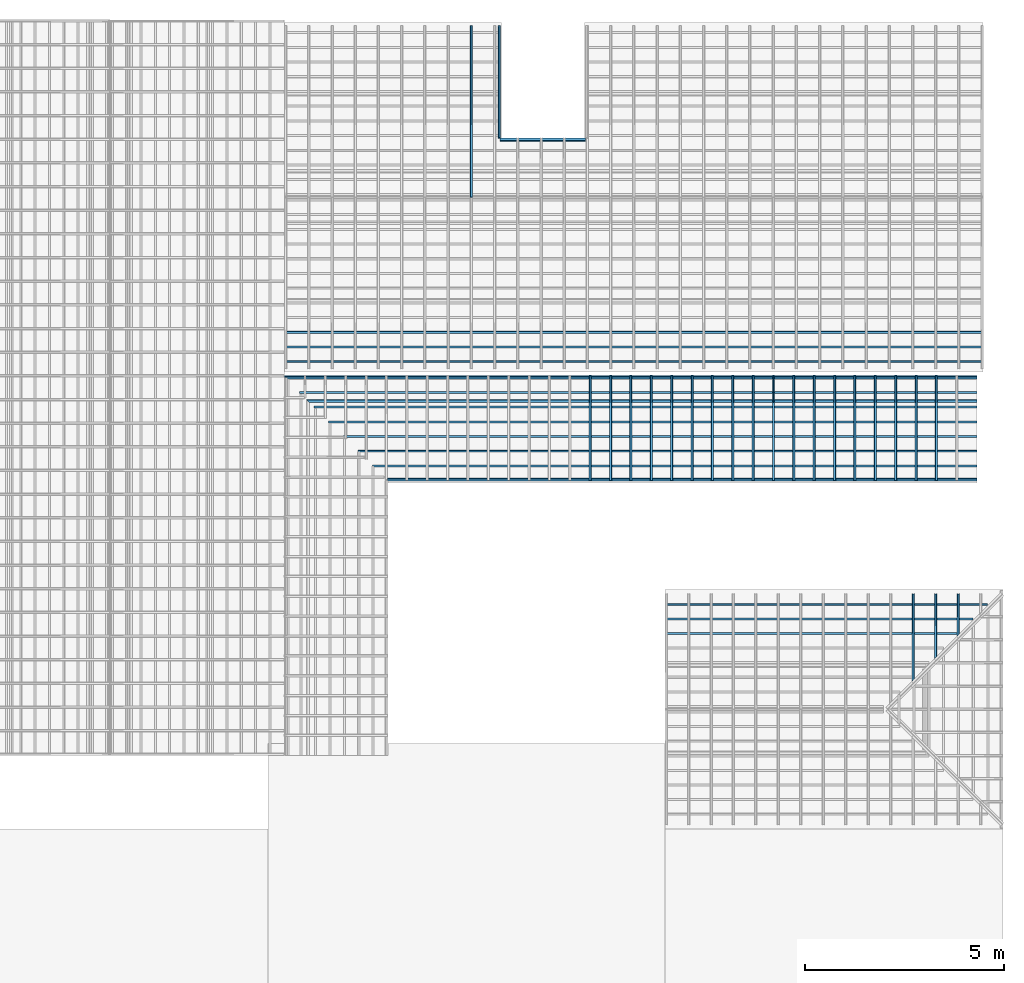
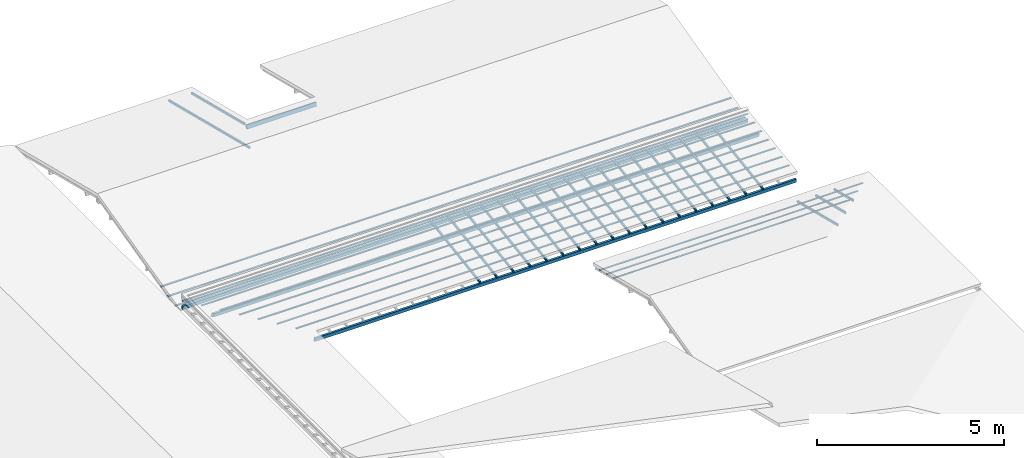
# One storey, part 6 of 10: 40 members, 8 elements without a shape of their own.
"""IFC2X3 building model written with IfcOpenShell, lengths in metres."""

from ifc_helpers import new_model, entity, si_unit, converted_unit, derived_unit, direction, frame, frame_2d, origin, origin_2d_with_axis, place, context, subcontext, project, spatial, rectangle, extrude, clip, halfspace, source, transform, mapped, material, type_object, type_shapes, element, aggregate, save


model = new_model("IFC2X3")

# Units and contexts
model_context = context("Model", 3, precision=1e-05, world=origin(), true_north=direction((6.12303176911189e-17, 1.0)))
body_context = subcontext(model_context, "Body", "Model", "MODEL_VIEW")
ifc_project = project(units=[si_unit("LENGTHUNIT", "METRE"), si_unit("AREAUNIT", "SQUARE_METRE"), si_unit("VOLUMEUNIT", "CUBIC_METRE"), converted_unit("PLANEANGLEUNIT", "DEGREE", entity("IfcRatioMeasure", 0.0174532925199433), si_unit("PLANEANGLEUNIT", "RADIAN"), dimensions=[0, 0, 0, 0, 0, 0, 0]), si_unit("MASSUNIT", "GRAM", prefix="KILO"), derived_unit("MASSDENSITYUNIT", [(si_unit("MASSUNIT", "GRAM", prefix="KILO"), 1), (si_unit("LENGTHUNIT", "METRE"), -3)]), si_unit("TIMEUNIT", "SECOND"), si_unit("FREQUENCYUNIT", "HERTZ"), si_unit("THERMODYNAMICTEMPERATUREUNIT", "DEGREE_CELSIUS"), derived_unit("THERMALTRANSMITTANCEUNIT", [(si_unit("MASSUNIT", "GRAM", prefix="KILO"), 1), (si_unit("THERMODYNAMICTEMPERATUREUNIT", "KELVIN"), -1), (si_unit("TIMEUNIT", "SECOND"), -3)]), derived_unit("VOLUMETRICFLOWRATEUNIT", [(si_unit("LENGTHUNIT", "METRE"), 3), (si_unit("TIMEUNIT", "SECOND"), -1)]), si_unit("ELECTRICCURRENTUNIT", "AMPERE"), si_unit("ELECTRICVOLTAGEUNIT", "VOLT"), si_unit("POWERUNIT", "WATT"), si_unit("FORCEUNIT", "NEWTON", prefix="KILO"), si_unit("ILLUMINANCEUNIT", "LUX"), si_unit("LUMINOUSFLUXUNIT", "LUMEN"), si_unit("LUMINOUSINTENSITYUNIT", "CANDELA"), derived_unit("USERDEFINED", [(si_unit("MASSUNIT", "GRAM", prefix="KILO"), -1), (si_unit("LENGTHUNIT", "METRE"), -2), (si_unit("TIMEUNIT", "SECOND"), 3), (si_unit("LUMINOUSFLUXUNIT", "LUMEN"), 1)]), derived_unit("LINEARVELOCITYUNIT", [(si_unit("LENGTHUNIT", "METRE"), 1), (si_unit("TIMEUNIT", "SECOND"), -1)]), si_unit("PRESSUREUNIT", "PASCAL"), derived_unit("USERDEFINED", [(si_unit("LENGTHUNIT", "METRE"), -2), (si_unit("MASSUNIT", "GRAM", prefix="KILO"), 1), (si_unit("TIMEUNIT", "SECOND"), -2)])], contexts=[model_context])

# Site, building, storey
site_placement = place(None, frame((26.9889013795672, -17.5624287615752, 0.0)))
site = spatial("IfcSite", under=ifc_project, at=site_placement, Name="Default", CompositionType="ELEMENT")
building_placement = place(site_placement, origin())
building = spatial("IfcBuilding", under=site, at=building_placement, Name="C. C. L. Monsenhor Antônio Sampaio", CompositionType="ELEMENT")
storey_placement = place(building_placement, frame((0.0, 0.0, 4.3)))
storey = spatial("IfcBuildingStorey", under=building, at=storey_placement, Name="COBERTURA BLOCO 01", CompositionType="ELEMENT", Elevation=4.3)

# Roof, members
curtain_wall_type_1 = type_object("IfcCurtainWallType", PredefinedType="NOTDEFINED")
roof_1_placement = place(storey_placement, frame((0.0, 0.0, -4.3)))
roof_1 = element("IfcRoof", 1, at=roof_1_placement, inside=storey, type_object=curtain_wall_type_1, ShapeType="NOTDEFINED")
ifc_material = material(Name=".Madeira")
member_type_1 = type_object("IfcMemberType", Name="Terça", PredefinedType="MEMBER")
shared_shape_1 = source(origin(), body_context, "Body", "SweptSolid", [
    extrude(rectangle(XDim=0.12, YDim=0.0599999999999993, at=origin_2d_with_axis()), frame((-0.0299999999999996, -0.06, -14.834834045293), z_axis=(0.0, 0.0, 1.0), x_axis=(0.0, -1.0, 0.0)), (0.0, 0.0, 1.0), 14.834834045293),
])
type_shapes(member_type_1, [shared_shape_1])
member_1_placement = place(storey_placement, frame((11.57944770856, -19.5382322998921, 0.00222510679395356), z_axis=(1.0, 0.0, 0.0), x_axis=(0.0, -0.988936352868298, -0.148340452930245)))
member_1 = element("IfcMember", 2, at=member_1_placement, type_object=member_type_1, material=ifc_material, Name="Rectangular Mullion:Terça", ObjectType="Terça", context=body_context, shape_type="MappedRepresentation", body=[
    mapped(shared_shape_1, transform((0.0, 0.0, 0.0), scale=1.0)),
])
member_type_2 = type_object("IfcMemberType", Name="Terça", PredefinedType="MEMBER")
shared_shape_2 = source(origin(), body_context, "Body", "SweptSolid", [
    extrude(rectangle(XDim=0.12, YDim=0.0599999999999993, at=origin_2d_with_axis()), frame((-0.0299999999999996, -0.06, -17.42), z_axis=(0.0, 0.0, 1.0), x_axis=(0.0, -1.0, 0.0)), (0.0, 0.0, 1.0), 17.42),
])
type_shapes(member_type_2, [shared_shape_2])
member_2_placement = place(storey_placement, frame((-5.84055229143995, -16.9030663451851, 0.397500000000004), z_axis=(-1.0, 0.0, 0.0), x_axis=(0.0, 0.988936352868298, 0.148340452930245)))
member_2 = element("IfcMember", 3, at=member_2_placement, type_object=member_type_2, material=ifc_material, Name="Rectangular Mullion:Terça", ObjectType="Terça", context=body_context, shape_type="MappedRepresentation", body=[
    mapped(shared_shape_2, transform((0.0, 0.0, 0.0), scale=1.0)),
])
member_type_3 = type_object("IfcMemberType", Name="Terça", PredefinedType="MEMBER")
shared_shape_3 = source(origin(), body_context, "Body", "Clipping", [
    clip(extrude(rectangle(XDim=0.12, YDim=0.0599999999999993, at=origin_2d_with_axis()), frame((0.0, -0.06, -16.8423748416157), z_axis=(0.0, 0.0, 1.0), x_axis=(0.0, -1.0, 0.0)), (0.0, 0.0, 1.0), 16.8720429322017), halfspace(frame((0.0452141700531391, -0.301427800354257, 0.0), z_axis=(-0.699283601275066, -0.10489254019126, 0.707106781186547), x_axis=(-0.699283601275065, -0.10489254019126, -0.707106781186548)), False)),
])
type_shapes(member_type_3, [shared_shape_3])
member_3_placement = place(storey_placement, frame((-5.26292713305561, -17.5306915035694, 0.303356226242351), z_axis=(-1.0, 0.0, 0.0), x_axis=(0.0, 0.988936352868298, 0.148340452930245)))
member_3 = element("IfcMember", 4, at=member_3_placement, type_object=member_type_3, material=ifc_material, Name="Rectangular Mullion:Terça", ObjectType="Terça", context=body_context, shape_type="MappedRepresentation", body=[
    mapped(shared_shape_3, transform((0.0, 0.0, 0.0), scale=1.0)),
])
aggregate(roof_1, [member_1, member_2, member_3])

curtain_wall_type_2 = type_object("IfcCurtainWallType", PredefinedType="NOTDEFINED")
roof_2_placement = place(storey_placement, frame((0.0, 0.0, -4.3)))
roof_2 = element("IfcRoof", 5, at=roof_2_placement, inside=storey, type_object=curtain_wall_type_2, ShapeType="NOTDEFINED")
member_type_4 = type_object("IfcMemberType", Name="Ripa", PredefinedType="MEMBER")
shared_shape_4 = source(origin(), body_context, "Body", "SweptSolid", [
    extrude(rectangle(XDim=0.015, YDim=0.05, at=frame_2d((-1.69135538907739e-17, 0.0), x_axis=(1.0, 0.0))), frame((-0.025, -0.1875, -17.42), z_axis=(0.0, 0.0, 1.0), x_axis=(0.0, -1.0, 0.0)), (0.0, 0.0, 1.0), 17.42),
])
type_shapes(member_type_4, [shared_shape_4])
member_4_placement = place(storey_placement, frame((-5.84055229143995, -16.9030663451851, 0.498618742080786), z_axis=(-1.0, 0.0, 0.0), x_axis=(0.0, 0.988936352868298, 0.148340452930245)))
member_4 = element("IfcMember", 6, at=member_4_placement, type_object=member_type_4, material=ifc_material, Name="Rectangular Mullion:Ripa", ObjectType="Ripa", context=body_context, shape_type="MappedRepresentation", body=[
    mapped(shared_shape_4, transform((0.0, 0.0, 0.0), scale=1.0)),
])
member_type_5 = type_object("IfcMemberType", Name="Ripa", PredefinedType="MEMBER")
shared_shape_5 = source(origin(), body_context, "Body", "SweptSolid", [
    extrude(rectangle(XDim=0.015, YDim=0.05, at=frame_2d((-1.69135538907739e-17, 0.0), x_axis=(1.0, 0.0))), frame((0.025, -0.1875, -15.204222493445), z_axis=(0.0, 0.0, 1.0), x_axis=(0.0, -1.0, 0.0)), (0.0, 0.0, 1.0), 15.204222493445),
])
type_shapes(member_type_5, [shared_shape_5])
member_5_placement = place(storey_placement, frame((-3.62477478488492, -19.1688438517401, 0.158752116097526), z_axis=(-1.0, 0.0, 0.0), x_axis=(0.0, 0.988936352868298, 0.148340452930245)))
member_5 = element("IfcMember", 7, at=member_5_placement, type_object=member_type_5, material=ifc_material, Name="Rectangular Mullion:Ripa", ObjectType="Ripa", context=body_context, shape_type="MappedRepresentation", body=[
    mapped(shared_shape_5, transform((0.0, 0.0, 0.0), scale=1.0)),
])
member_type_6 = type_object("IfcMemberType", Name="Ripa", PredefinedType="MEMBER")
shared_shape_6 = source(origin(), body_context, "Body", "SweptSolid", [
    extrude(rectangle(XDim=0.015, YDim=0.05, at=frame_2d((-1.69135538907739e-17, 0.0), x_axis=(1.0, 0.0))), frame((0.025, -0.1875, -15.5736109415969), z_axis=(0.0, 0.0, 1.0), x_axis=(0.0, -1.0, 0.0)), (0.0, 0.0, 1.0), 15.5736109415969),
])
type_shapes(member_type_6, [shared_shape_6])
member_6_placement = place(storey_placement, frame((-3.99416323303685, -18.7994554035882, 0.214160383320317), z_axis=(-1.0, 0.0, 0.0), x_axis=(0.0, 0.988936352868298, 0.148340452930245)))
member_6 = element("IfcMember", 8, at=member_6_placement, type_object=member_type_6, material=ifc_material, Name="Rectangular Mullion:Ripa", ObjectType="Ripa", context=body_context, shape_type="MappedRepresentation", body=[
    mapped(shared_shape_6, transform((0.0, 0.0, 0.0), scale=1.0)),
])
member_type_7 = type_object("IfcMemberType", Name="Ripa", PredefinedType="MEMBER")
shared_shape_7 = source(origin(), body_context, "Body", "SweptSolid", [
    extrude(rectangle(XDim=0.015, YDim=0.05, at=frame_2d((-1.69135538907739e-17, 0.0), x_axis=(1.0, 0.0))), frame((0.025, -0.1875, -15.9429993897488), z_axis=(0.0, 0.0, 1.0), x_axis=(0.0, -1.0, 0.0)), (0.0, 0.0, 1.0), 15.9429993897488),
])
type_shapes(member_type_7, [shared_shape_7])
member_7_placement = place(storey_placement, frame((-4.36355168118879, -18.4300669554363, 0.269568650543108), z_axis=(-1.0, 0.0, 0.0), x_axis=(0.0, 0.988936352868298, 0.148340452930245)))
member_7 = element("IfcMember", 9, at=member_7_placement, type_object=member_type_7, material=ifc_material, Name="Rectangular Mullion:Ripa", ObjectType="Ripa", context=body_context, shape_type="MappedRepresentation", body=[
    mapped(shared_shape_7, transform((0.0, 0.0, 0.0), scale=1.0)),
])
member_type_8 = type_object("IfcMemberType", Name="Ripa", PredefinedType="MEMBER")
shared_shape_8 = source(origin(), body_context, "Body", "SweptSolid", [
    extrude(rectangle(XDim=0.015, YDim=0.05, at=frame_2d((-1.69135538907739e-17, 0.0), x_axis=(1.0, 0.0))), frame((0.025, -0.1875, -16.3123878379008), z_axis=(0.0, 0.0, 1.0), x_axis=(0.0, -1.0, 0.0)), (0.0, 0.0, 1.0), 16.3123878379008),
])
type_shapes(member_type_8, [shared_shape_8])
member_8_placement = place(storey_placement, frame((-4.73294012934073, -18.0606785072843, 0.3249769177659), z_axis=(-1.0, 0.0, 0.0), x_axis=(0.0, 0.988936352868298, 0.148340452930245)))
member_8 = element("IfcMember", 10, at=member_8_placement, type_object=member_type_8, material=ifc_material, Name="Rectangular Mullion:Ripa", ObjectType="Ripa", context=body_context, shape_type="MappedRepresentation", body=[
    mapped(shared_shape_8, transform((0.0, 0.0, 0.0), scale=1.0)),
])
member_type_9 = type_object("IfcMemberType", Name="Ripa", PredefinedType="MEMBER")
shared_shape_9 = source(origin(), body_context, "Body", "SweptSolid", [
    extrude(rectangle(XDim=0.015, YDim=0.05, at=frame_2d((-1.69135538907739e-17, 0.0), x_axis=(1.0, 0.0))), frame((0.025, -0.1875, -16.6817762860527), z_axis=(0.0, 0.0, 1.0), x_axis=(0.0, -1.0, 0.0)), (0.0, 0.0, 1.0), 16.6817762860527),
])
type_shapes(member_type_9, [shared_shape_9])
member_9_placement = place(storey_placement, frame((-5.10232857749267, -17.6912900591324, 0.380385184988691), z_axis=(-1.0, 0.0, 0.0), x_axis=(0.0, 0.988936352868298, 0.148340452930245)))
member_9 = element("IfcMember", 11, at=member_9_placement, type_object=member_type_9, material=ifc_material, Name="Rectangular Mullion:Ripa", ObjectType="Ripa", context=body_context, shape_type="MappedRepresentation", body=[
    mapped(shared_shape_9, transform((0.0, 0.0, 0.0), scale=1.0)),
])
member_type_10 = type_object("IfcMemberType", Name="Ripa", PredefinedType="MEMBER")
shared_shape_10 = source(origin(), body_context, "Body", "SweptSolid", [
    extrude(rectangle(XDim=0.015, YDim=0.05, at=frame_2d((-1.69135538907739e-17, 0.0), x_axis=(1.0, 0.0))), frame((0.025, -0.1875, -17.0511647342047), z_axis=(0.0, 0.0, 1.0), x_axis=(0.0, -1.0, 0.0)), (0.0, 0.0, 1.0), 17.0511647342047),
])
type_shapes(member_type_10, [shared_shape_10])
member_10_placement = place(storey_placement, frame((-5.47171702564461, -17.3219016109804, 0.435793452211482), z_axis=(-1.0, 0.0, 0.0), x_axis=(0.0, 0.988936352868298, 0.148340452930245)))
member_10 = element("IfcMember", 12, at=member_10_placement, type_object=member_type_10, material=ifc_material, Name="Rectangular Mullion:Ripa", ObjectType="Ripa", context=body_context, shape_type="MappedRepresentation", body=[
    mapped(shared_shape_10, transform((0.0, 0.0, 0.0), scale=1.0)),
])
aggregate(roof_2, [member_4, member_5, member_6, member_7, member_8, member_9, member_10])

curtain_wall_type_3 = type_object("IfcCurtainWallType", PredefinedType="NOTDEFINED")
roof_3_placement = place(storey_placement, frame((0.0, 0.0, -4.3)))
roof_3 = element("IfcRoof", 13, at=roof_3_placement, inside=storey, type_object=curtain_wall_type_3, ShapeType="NOTDEFINED")
member_type_11 = type_object("IfcMemberType", Name="6x5 cm", PredefinedType="MEMBER")
shared_shape_11 = source(origin(), body_context, "Body", "SweptSolid", [
    extrude(rectangle(XDim=0.06, YDim=0.05, at=origin_2d_with_axis()), frame((0.0, 0.05, -2.66464666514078), z_axis=(0.0, 0.0, 1.0), x_axis=(0.0, -1.0, 0.0)), (0.0, 0.0, 1.0), 2.66464666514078),
])
type_shapes(member_type_11, [shared_shape_11])
member_11_placement = place(storey_placement, frame((1.84474182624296, -16.9030663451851, 0.599737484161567), z_axis=(0.0, 0.988936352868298, 0.148340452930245), x_axis=(1.0, 0.0, 0.0)))
member_11 = element("IfcMember", 14, at=member_11_placement, type_object=member_type_11, material=ifc_material, Name="Rectangular Mullion:6x5 cm", ObjectType="6x5 cm", context=body_context, shape_type="MappedRepresentation", body=[
    mapped(shared_shape_11, transform((0.0, 0.0, 0.0), scale=1.0)),
])
member_12_placement = place(storey_placement, frame((2.3570947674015, -16.9030663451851, 0.599737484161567), z_axis=(0.0, 0.988936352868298, 0.148340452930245), x_axis=(1.0, 0.0, 0.0)))
member_12 = element("IfcMember", 15, at=member_12_placement, type_object=member_type_11, material=ifc_material, Name="Rectangular Mullion:6x5 cm", ObjectType="6x5 cm", context=body_context, shape_type="MappedRepresentation", body=[
    mapped(shared_shape_11, transform((0.0, 0.0, 0.0), scale=1.0)),
])
member_13_placement = place(storey_placement, frame((2.86944770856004, -16.9030663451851, 0.599737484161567), z_axis=(0.0, 0.988936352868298, 0.148340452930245), x_axis=(1.0, 0.0, 0.0)))
member_13 = element("IfcMember", 16, at=member_13_placement, type_object=member_type_11, material=ifc_material, Name="Rectangular Mullion:6x5 cm", ObjectType="6x5 cm", context=body_context, shape_type="MappedRepresentation", body=[
    mapped(shared_shape_11, transform((0.0, 0.0, 0.0), scale=1.0)),
])
member_14_placement = place(storey_placement, frame((3.38180064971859, -16.9030663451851, 0.599737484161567), z_axis=(0.0, 0.988936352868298, 0.148340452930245), x_axis=(1.0, 0.0, 0.0)))
member_14 = element("IfcMember", 17, at=member_14_placement, type_object=member_type_11, material=ifc_material, Name="Rectangular Mullion:6x5 cm", ObjectType="6x5 cm", context=body_context, shape_type="MappedRepresentation", body=[
    mapped(shared_shape_11, transform((0.0, 0.0, 0.0), scale=1.0)),
])
member_15_placement = place(storey_placement, frame((3.89415359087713, -16.9030663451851, 0.599737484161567), z_axis=(0.0, 0.988936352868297, 0.148340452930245), x_axis=(1.0, 0.0, 0.0)))
member_15 = element("IfcMember", 18, at=member_15_placement, type_object=member_type_11, material=ifc_material, Name="Rectangular Mullion:6x5 cm", ObjectType="6x5 cm", context=body_context, shape_type="MappedRepresentation", body=[
    mapped(shared_shape_11, transform((0.0, 0.0, 0.0), scale=1.0)),
])
member_16_placement = place(storey_placement, frame((4.40650653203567, -16.9030663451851, 0.599737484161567), z_axis=(0.0, 0.988936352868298, 0.148340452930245), x_axis=(1.0, 0.0, 0.0)))
member_16 = element("IfcMember", 19, at=member_16_placement, type_object=member_type_11, material=ifc_material, Name="Rectangular Mullion:6x5 cm", ObjectType="6x5 cm", context=body_context, shape_type="MappedRepresentation", body=[
    mapped(shared_shape_11, transform((0.0, 0.0, 0.0), scale=1.0)),
])
member_17_placement = place(storey_placement, frame((4.91885947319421, -16.9030663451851, 0.599737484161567), z_axis=(0.0, 0.988936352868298, 0.148340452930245), x_axis=(1.0, 0.0, 0.0)))
member_17 = element("IfcMember", 20, at=member_17_placement, type_object=member_type_11, material=ifc_material, Name="Rectangular Mullion:6x5 cm", ObjectType="6x5 cm", context=body_context, shape_type="MappedRepresentation", body=[
    mapped(shared_shape_11, transform((0.0, 0.0, 0.0), scale=1.0)),
])
member_18_placement = place(storey_placement, frame((5.43121241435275, -16.9030663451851, 0.599737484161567), z_axis=(0.0, 0.988936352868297, 0.148340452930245), x_axis=(1.0, 0.0, 0.0)))
member_18 = element("IfcMember", 21, at=member_18_placement, type_object=member_type_11, material=ifc_material, Name="Rectangular Mullion:6x5 cm", ObjectType="6x5 cm", context=body_context, shape_type="MappedRepresentation", body=[
    mapped(shared_shape_11, transform((0.0, 0.0, 0.0), scale=1.0)),
])
member_19_placement = place(storey_placement, frame((5.9435653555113, -16.9030663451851, 0.599737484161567), z_axis=(0.0, 0.988936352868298, 0.148340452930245), x_axis=(1.0, 0.0, 0.0)))
member_19 = element("IfcMember", 22, at=member_19_placement, type_object=member_type_11, material=ifc_material, Name="Rectangular Mullion:6x5 cm", ObjectType="6x5 cm", context=body_context, shape_type="MappedRepresentation", body=[
    mapped(shared_shape_11, transform((0.0, 0.0, 0.0), scale=1.0)),
])
member_20_placement = place(storey_placement, frame((6.45591829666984, -16.9030663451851, 0.599737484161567), z_axis=(0.0, 0.988936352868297, 0.148340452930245), x_axis=(1.0, 0.0, 0.0)))
member_20 = element("IfcMember", 23, at=member_20_placement, type_object=member_type_11, material=ifc_material, Name="Rectangular Mullion:6x5 cm", ObjectType="6x5 cm", context=body_context, shape_type="MappedRepresentation", body=[
    mapped(shared_shape_11, transform((0.0, 0.0, 0.0), scale=1.0)),
])
member_21_placement = place(storey_placement, frame((6.96827123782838, -16.9030663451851, 0.599737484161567), z_axis=(0.0, 0.988936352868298, 0.148340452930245), x_axis=(1.0, 0.0, 0.0)))
member_21 = element("IfcMember", 24, at=member_21_placement, type_object=member_type_11, material=ifc_material, Name="Rectangular Mullion:6x5 cm", ObjectType="6x5 cm", context=body_context, shape_type="MappedRepresentation", body=[
    mapped(shared_shape_11, transform((0.0, 0.0, 0.0), scale=1.0)),
])
member_22_placement = place(storey_placement, frame((7.48062417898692, -16.9030663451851, 0.599737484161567), z_axis=(0.0, 0.988936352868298, 0.148340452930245), x_axis=(1.0, 0.0, 0.0)))
member_22 = element("IfcMember", 25, at=member_22_placement, type_object=member_type_11, material=ifc_material, Name="Rectangular Mullion:6x5 cm", ObjectType="6x5 cm", context=body_context, shape_type="MappedRepresentation", body=[
    mapped(shared_shape_11, transform((0.0, 0.0, 0.0), scale=1.0)),
])
member_23_placement = place(storey_placement, frame((7.99297712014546, -16.9030663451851, 0.599737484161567), z_axis=(0.0, 0.988936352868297, 0.148340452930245), x_axis=(1.0, 0.0, 0.0)))
member_23 = element("IfcMember", 26, at=member_23_placement, type_object=member_type_11, material=ifc_material, Name="Rectangular Mullion:6x5 cm", ObjectType="6x5 cm", context=body_context, shape_type="MappedRepresentation", body=[
    mapped(shared_shape_11, transform((0.0, 0.0, 0.0), scale=1.0)),
])
member_24_placement = place(storey_placement, frame((8.505330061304, -16.9030663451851, 0.599737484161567), z_axis=(0.0, 0.988936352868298, 0.148340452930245), x_axis=(1.0, 0.0, 0.0)))
member_24 = element("IfcMember", 27, at=member_24_placement, type_object=member_type_11, material=ifc_material, Name="Rectangular Mullion:6x5 cm", ObjectType="6x5 cm", context=body_context, shape_type="MappedRepresentation", body=[
    mapped(shared_shape_11, transform((0.0, 0.0, 0.0), scale=1.0)),
])
member_25_placement = place(storey_placement, frame((9.01768300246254, -16.9030663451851, 0.599737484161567), z_axis=(0.0, 0.988936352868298, 0.148340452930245), x_axis=(1.0, 0.0, 0.0)))
member_25 = element("IfcMember", 28, at=member_25_placement, type_object=member_type_11, material=ifc_material, Name="Rectangular Mullion:6x5 cm", ObjectType="6x5 cm", context=body_context, shape_type="MappedRepresentation", body=[
    mapped(shared_shape_11, transform((0.0, 0.0, 0.0), scale=1.0)),
])
member_26_placement = place(storey_placement, frame((9.53003594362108, -16.9030663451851, 0.599737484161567), z_axis=(0.0, 0.988936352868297, 0.148340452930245), x_axis=(1.0, 0.0, 0.0)))
member_26 = element("IfcMember", 29, at=member_26_placement, type_object=member_type_11, material=ifc_material, Name="Rectangular Mullion:6x5 cm", ObjectType="6x5 cm", context=body_context, shape_type="MappedRepresentation", body=[
    mapped(shared_shape_11, transform((0.0, 0.0, 0.0), scale=1.0)),
])
member_27_placement = place(storey_placement, frame((10.0423888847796, -16.9030663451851, 0.599737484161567), z_axis=(0.0, 0.988936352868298, 0.148340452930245), x_axis=(1.0, 0.0, 0.0)))
member_27 = element("IfcMember", 30, at=member_27_placement, type_object=member_type_11, material=ifc_material, Name="Rectangular Mullion:6x5 cm", ObjectType="6x5 cm", context=body_context, shape_type="MappedRepresentation", body=[
    mapped(shared_shape_11, transform((0.0, 0.0, 0.0), scale=1.0)),
])
member_28_placement = place(storey_placement, frame((10.5547418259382, -16.9030663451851, 0.599737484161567), z_axis=(0.0, 0.988936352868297, 0.148340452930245), x_axis=(1.0, 0.0, 0.0)))
member_28 = element("IfcMember", 31, at=member_28_placement, type_object=member_type_11, material=ifc_material, Name="Rectangular Mullion:6x5 cm", ObjectType="6x5 cm", context=body_context, shape_type="MappedRepresentation", body=[
    mapped(shared_shape_11, transform((0.0, 0.0, 0.0), scale=1.0)),
])
aggregate(roof_3, [member_11, member_12, member_13, member_14, member_15, member_16, member_17, member_18, member_19, member_20, member_21, member_22, member_23, member_24, member_25, member_26, member_27, member_28])

roof_4_placement = place(storey_placement, frame((0.0, 0.0, -4.3)))
roof_4 = element("IfcRoof", 32, at=roof_4_placement, inside=storey, type_object=curtain_wall_type_2, ShapeType="NOTDEFINED")
member_type_12 = type_object("IfcMemberType", Name="Ripa", PredefinedType="MEMBER")
shared_shape_12 = source(origin(), body_context, "Body", "SweptSolid", [
    extrude(rectangle(XDim=0.015, YDim=0.05, at=frame_2d((-1.69135538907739e-17, 0.0), x_axis=(1.0, 0.0))), frame((0.025, -0.1875, -8.1086620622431), z_axis=(0.0, 0.0, 1.0), x_axis=(0.0, -1.0, 0.0)), (0.0, 0.0, 1.0), 8.1086620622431),
])
type_shapes(member_type_12, [shared_shape_12])
member_29_placement = place(storey_placement, frame((11.8380392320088, -22.6744748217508, 1.59592975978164), z_axis=(1.0, 0.0, 0.0), x_axis=(0.0, -0.970142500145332, 0.242535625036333)))
member_29 = element("IfcMember", 33, at=member_29_placement, type_object=member_type_12, material=ifc_material, Name="Rectangular Mullion:Ripa", ObjectType="Ripa", context=body_context, shape_type="MappedRepresentation", body=[
    mapped(shared_shape_12, transform((0.0, 0.0, 0.0), scale=1.0)),
])
member_type_13 = type_object("IfcMemberType", Name="Ripa", PredefinedType="MEMBER")
shared_shape_13 = source(origin(), body_context, "Body", "SweptSolid", [
    extrude(rectangle(XDim=0.015, YDim=0.05, at=frame_2d((-1.69135538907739e-17, 0.0), x_axis=(1.0, 0.0))), frame((0.025, -0.1875, -7.74150714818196), z_axis=(0.0, 0.0, 1.0), x_axis=(0.0, -1.0, 0.0)), (0.0, 0.0, 1.0), 7.74150714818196),
])
type_shapes(member_type_13, [shared_shape_13])
member_30_placement = place(storey_placement, frame((11.4708843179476, -23.0416297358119, 1.68771848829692), z_axis=(1.0, 0.0, 0.0), x_axis=(0.0, -0.970142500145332, 0.242535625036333)))
member_30 = element("IfcMember", 34, at=member_30_placement, type_object=member_type_13, material=ifc_material, Name="Rectangular Mullion:Ripa", ObjectType="Ripa", context=body_context, shape_type="MappedRepresentation", body=[
    mapped(shared_shape_13, transform((0.0, 0.0, 0.0), scale=1.0)),
])
member_type_14 = type_object("IfcMemberType", Name="Ripa", PredefinedType="MEMBER")
shared_shape_14 = source(origin(), body_context, "Body", "SweptSolid", [
    extrude(rectangle(XDim=0.015, YDim=0.05, at=frame_2d((-1.69135538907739e-17, 0.0), x_axis=(1.0, 0.0))), frame((0.025, -0.1875, -7.37435223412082), z_axis=(0.0, 0.0, 1.0), x_axis=(0.0, -1.0, 0.0)), (0.0, 0.0, 1.0), 7.37435223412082),
])
type_shapes(member_type_14, [shared_shape_14])
member_31_placement = place(storey_placement, frame((11.1037294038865, -23.408784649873, 1.77950721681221), z_axis=(1.0, 0.0, 0.0), x_axis=(0.0, -0.970142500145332, 0.242535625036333)))
member_31 = element("IfcMember", 35, at=member_31_placement, type_object=member_type_14, material=ifc_material, Name="Rectangular Mullion:Ripa", ObjectType="Ripa", context=body_context, shape_type="MappedRepresentation", body=[
    mapped(shared_shape_14, transform((0.0, 0.0, 0.0), scale=1.0)),
])
aggregate(roof_4, [member_29, member_30, member_31])

curtain_wall_type_4 = type_object("IfcCurtainWallType", PredefinedType="NOTDEFINED")
roof_5_placement = place(storey_placement, frame((0.0, 0.0, -4.3)))
roof_5 = element("IfcRoof", 36, at=roof_5_placement, inside=storey, type_object=curtain_wall_type_4, ShapeType="NOTDEFINED")
member_type_15 = type_object("IfcMemberType", Name="Caibro", PredefinedType="MEMBER")
shared_shape_15 = source(origin(), body_context, "Body", "Clipping", [
    clip(extrude(rectangle(XDim=0.06, YDim=0.0499999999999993, at=origin_2d_with_axis()), frame((0.0, -0.03, -1.13912021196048), z_axis=(0.0, 0.0, 1.0), x_axis=(0.0, -1.0, 0.0)), (0.0, 0.0, 1.0), 1.09308258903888), halfspace(frame((-0.52916743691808, 91.44, -0.617260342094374), z_axis=(-0.717740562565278, 0.0, 0.696310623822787), x_axis=(0.696310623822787, 0.0, 0.717740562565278)), False)),
])
type_shapes(member_type_15, [shared_shape_15])
member_32_placement = place(storey_placement, frame((11.1000852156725, -23.512428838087, 1.92849590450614), z_axis=(0.0, -0.970142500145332, 0.242535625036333), x_axis=(-1.0, 0.0, 0.0)))
member_32 = element("IfcMember", 37, at=member_32_placement, type_object=member_type_15, material=ifc_material, Name="Rectangular Mullion:Caibro", ObjectType="Caibro", context=body_context, shape_type="MappedRepresentation", body=[
    mapped(shared_shape_15, transform((0.0, 0.0, 0.0), scale=1.0)),
])
member_type_16 = type_object("IfcMemberType", Name="Caibro", PredefinedType="MEMBER")
shared_shape_16 = source(origin(), body_context, "Body", "Clipping", [
    clip(extrude(rectangle(XDim=0.06, YDim=0.0499999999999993, at=origin_2d_with_axis()), frame((0.0, -0.03, -1.72156502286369), z_axis=(0.0, 0.0, 1.0), x_axis=(0.0, -1.0, 0.0)), (0.0, 0.0, 1.0), 1.67552739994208), halfspace(frame((-0.529167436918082, 91.44, -0.617260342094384), z_axis=(-0.717740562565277, 0.0, 0.696310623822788), x_axis=(0.696310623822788, 0.0, 0.717740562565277)), False)),
])
type_shapes(member_type_16, [shared_shape_16])
member_33_placement = place(storey_placement, frame((10.5350307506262, -24.0774833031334, 2.06975952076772), z_axis=(0.0, -0.970142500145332, 0.242535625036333), x_axis=(-1.0, 0.0, 0.0)))
member_33 = element("IfcMember", 38, at=member_33_placement, type_object=member_type_16, material=ifc_material, Name="Rectangular Mullion:Caibro", ObjectType="Caibro", context=body_context, shape_type="MappedRepresentation", body=[
    mapped(shared_shape_16, transform((0.0, 0.0, 0.0), scale=1.0)),
])
member_type_17 = type_object("IfcMemberType", Name="Caibro", PredefinedType="MEMBER")
shared_shape_17 = source(origin(), body_context, "Body", "Clipping", [
    clip(extrude(rectangle(XDim=0.06, YDim=0.0499999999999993, at=origin_2d_with_axis()), frame((0.0, -0.03, -2.3040098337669), z_axis=(0.0, 0.0, 1.0), x_axis=(0.0, -1.0, 0.0)), (0.0, 0.0, 1.0), 2.25797221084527), halfspace(frame((-0.529167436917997, 91.44, -0.617260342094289), z_axis=(-0.717740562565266, 0.0, 0.696310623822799), x_axis=(0.696310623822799, 0.0, 0.717740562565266)), False)),
])
type_shapes(member_type_17, [shared_shape_17])
member_34_placement = place(storey_placement, frame((9.96997628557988, -24.6425377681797, 2.2110231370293), z_axis=(0.0, -0.970142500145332, 0.242535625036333), x_axis=(-1.0, 0.0, 0.0)))
member_34 = element("IfcMember", 39, at=member_34_placement, type_object=member_type_17, material=ifc_material, Name="Rectangular Mullion:Caibro", ObjectType="Caibro", context=body_context, shape_type="MappedRepresentation", body=[
    mapped(shared_shape_17, transform((0.0, 0.0, 0.0), scale=1.0)),
])
aggregate(roof_5, [member_32, member_33, member_34])

roof_6_placement = place(storey_placement, frame((0.0, 0.0, -4.3)))
roof_6 = element("IfcRoof", 40, at=roof_6_placement, inside=storey, type_object=curtain_wall_type_2, ShapeType="NOTDEFINED")
member_type_18 = type_object("IfcMemberType", Name="Ripa", PredefinedType="MEMBER")
shared_shape_18 = source(origin(), body_context, "Body", "SweptSolid", [
    extrude(rectangle(XDim=0.015, YDim=0.05, at=frame_2d((-1.69135538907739e-17, 0.0), x_axis=(1.0, 0.0))), frame((0.025, -0.1875, -17.5700000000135), z_axis=(0.0, 0.0, 1.0), x_axis=(0.0, -1.0, 0.0)), (0.0, 0.0, 1.0), 17.5700000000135),
])
type_shapes(member_type_18, [shared_shape_18])
member_35_placement = place(storey_placement, frame((-5.84055229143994, -16.5290428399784, 0.0821611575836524), z_axis=(-1.0, 0.0, 0.0), x_axis=(0.0, 0.970142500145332, 0.242535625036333)))
member_35 = element("IfcMember", 41, at=member_35_placement, type_object=member_type_18, material=ifc_material, Name="Rectangular Mullion:Ripa", ObjectType="Ripa", context=body_context, shape_type="MappedRepresentation", body=[
    mapped(shared_shape_18, transform((0.0, 0.0, 0.0), scale=1.0)),
])
member_36_placement = place(storey_placement, frame((-5.84055229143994, -16.159272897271, 0.174603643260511), z_axis=(-1.0, 0.0, 0.0), x_axis=(0.0, 0.970142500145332, 0.242535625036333)))
member_36 = element("IfcMember", 42, at=member_36_placement, type_object=member_type_18, material=ifc_material, Name="Rectangular Mullion:Ripa", ObjectType="Ripa", context=body_context, shape_type="MappedRepresentation", body=[
    mapped(shared_shape_18, transform((0.0, 0.0, 0.0), scale=1.0)),
])
member_37_placement = place(storey_placement, frame((-5.84055229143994, -15.7895029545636, 0.267046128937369), z_axis=(-1.0, 0.0, 0.0), x_axis=(0.0, 0.970142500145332, 0.242535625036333)))
member_37 = element("IfcMember", 43, at=member_37_placement, type_object=member_type_18, material=ifc_material, Name="Rectangular Mullion:Ripa", ObjectType="Ripa", context=body_context, shape_type="MappedRepresentation", body=[
    mapped(shared_shape_18, transform((0.0, 0.0, 0.0), scale=1.0)),
])
aggregate(roof_6, [member_35, member_36, member_37])

# Roof, member
roof_7_placement = place(storey_placement, frame((0.0, 0.0, -4.3)))
roof_7 = element("IfcRoof", 44, at=roof_7_placement, inside=storey, type_object=curtain_wall_type_1, ShapeType="NOTDEFINED")
member_type_19 = type_object("IfcMemberType", Name="Terça", PredefinedType="MEMBER")
shared_shape_19 = source(origin(), body_context, "Body", "SweptSolid", [
    extrude(rectangle(XDim=0.12, YDim=0.0599999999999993, at=origin_2d_with_axis()), frame((-0.0299999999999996, -0.06, -2.15000000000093), z_axis=(0.0, 0.0, 1.0), x_axis=(0.0, -1.0, 0.0)), (0.0, 0.0, 1.0), 2.15000000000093),
])
type_shapes(member_type_19, [shared_shape_19])
member_38_placement = place(storey_placement, frame((-0.420552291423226, -10.953066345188, 0.746827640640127), z_axis=(-1.0, 0.0, 0.0), x_axis=(0.0, 0.970142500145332, -0.242535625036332)))
member_38 = element("IfcMember", 45, at=member_38_placement, type_object=member_type_19, material=ifc_material, Name="Rectangular Mullion:Terça", ObjectType="Terça", context=body_context, shape_type="MappedRepresentation", body=[
    mapped(shared_shape_19, transform((0.0, 0.0, 0.0), scale=1.0)),
])
aggregate(roof_7, [member_38])

# Roof, members
roof_8_placement = place(storey_placement, frame((0.0, 0.0, -4.3)))
roof_8 = element("IfcRoof", 46, at=roof_8_placement, inside=storey, type_object=curtain_wall_type_4, ShapeType="NOTDEFINED")
member_type_20 = type_object("IfcMemberType", Name="Caibro", PredefinedType="MEMBER")
shared_shape_20 = source(origin(), body_context, "Body", "Clipping", [
    clip(extrude(rectangle(XDim=0.06, YDim=0.0499999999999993, at=origin_2d_with_axis()), frame((0.0, -0.03, -4.43310795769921), z_axis=(0.0, 0.0, 1.0), x_axis=(0.0, -1.0, 0.0)), (0.0, 0.0, 1.0), 4.44810795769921), halfspace(frame((-0.3048, 0.0, 0.0), z_axis=(0.0, 0.242535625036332, 0.970142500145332), x_axis=(0.0, 0.970142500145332, -0.242535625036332)), False)),
])
type_shapes(member_type_20, [shared_shape_20])
member_39_placement = place(storey_placement, frame((-1.1435522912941, -12.4105663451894, 1.23615528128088), z_axis=(0.0, -0.970142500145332, 0.242535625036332), x_axis=(-1.0, 0.0, 0.0)))
member_39 = element("IfcMember", 47, at=member_39_placement, type_object=member_type_20, material=ifc_material, Name="Rectangular Mullion:Caibro", ObjectType="Caibro", context=body_context, shape_type="MappedRepresentation", body=[
    mapped(shared_shape_20, transform((0.0, 0.0, 0.0), scale=1.0)),
])
member_type_21 = type_object("IfcMemberType", Name="Caibro", PredefinedType="MEMBER")
shared_shape_21 = source(origin(), body_context, "Body", "SweptSolid", [
    extrude(rectangle(XDim=0.06, YDim=0.0499999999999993, at=origin_2d_with_axis()), frame((-0.0249999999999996, -0.03, -2.91271275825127), z_axis=(0.0, 0.0, 1.0), x_axis=(0.0, -1.0, 0.0)), (0.0, 0.0, 1.0), 2.91271275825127),
])
type_shapes(member_type_21, [shared_shape_21])
member_40_placement = place(storey_placement, frame((-0.420552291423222, -8.10981990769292, 0.160968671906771), z_axis=(0.0, 0.970142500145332, -0.242535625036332), x_axis=(1.0, 0.0, 0.0)))
member_40 = element("IfcMember", 48, at=member_40_placement, type_object=member_type_21, material=ifc_material, Name="Rectangular Mullion:Caibro", ObjectType="Caibro", context=body_context, shape_type="MappedRepresentation", body=[
    mapped(shared_shape_21, transform((0.0, 0.0, 0.0), scale=1.0)),
])
aggregate(roof_8, [member_40, member_39])

save(model, "model.ifc")
